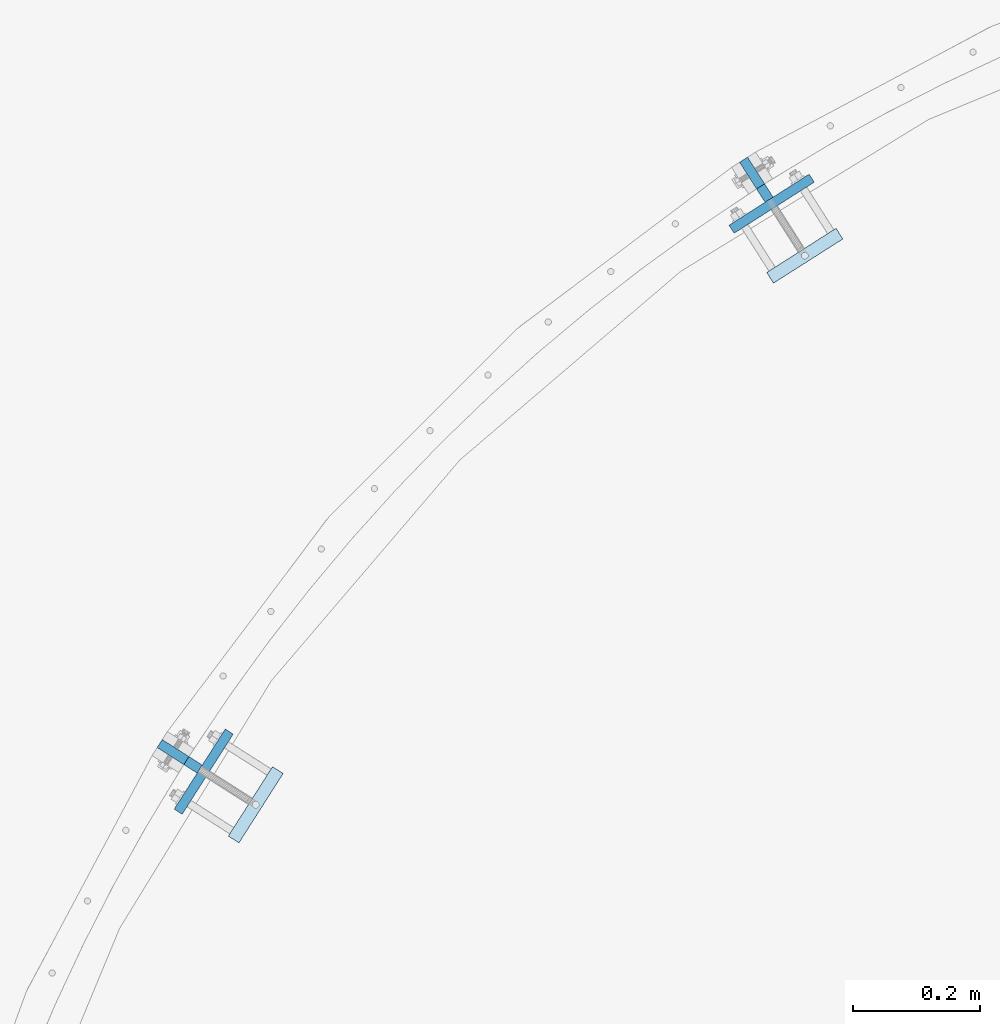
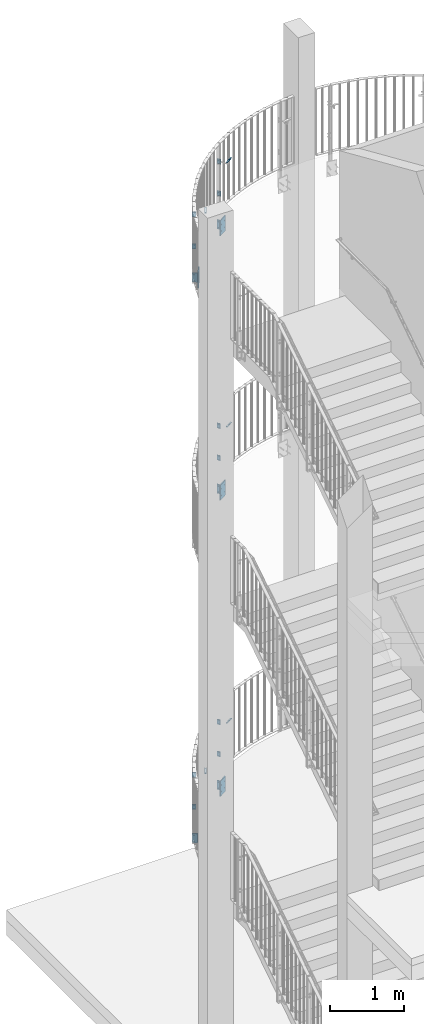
# One storey, part 113 of 296: 24 plates, 51 openings.
"""IFC2X3 building model written with IfcOpenShell, lengths in millimetres."""

from ifc_helpers import new_model, entity, si_unit, converted_unit, frame, frame_2d, origin, origin_with_axes, origin_2d_with_axis, place, context, project, spatial, polyline, circle, outline, extrude, material, layer, layer_set, element, save


model = new_model("IFC2X3")

# Units and contexts
model_context = context("Model", 3, precision=1e-09, world=origin_with_axes())
ifc_project = project(units=[si_unit("LENGTHUNIT", "METRE", prefix="MILLI"), si_unit("AREAUNIT", "SQUARE_METRE"), si_unit("VOLUMEUNIT", "CUBIC_METRE"), converted_unit("PLANEANGLEUNIT", "DEGREE", entity("IfcPlaneAngleMeasure", 0.01745329), si_unit("PLANEANGLEUNIT", "RADIAN"), dimensions=[0, 0, 0, 0, 0, 0, 0])], contexts=[model_context])

# Site, building, storey
site_placement = place(None, origin_with_axes())
site = spatial("IfcSite", under=ifc_project, at=site_placement, Name="TZD-S?d | Treppenhausgel?nder", CompositionType="ELEMENT")
building_placement = place(site_placement, origin_with_axes())
building = spatial("IfcBuilding", under=site, at=building_placement, Name="Struktur 1", CompositionType="ELEMENT")
storey_placement = place(building_placement, origin_with_axes())
storey = spatial("IfcBuildingStorey", under=building, at=storey_placement, Name="Default Storey", CompositionType="ELEMENT", Elevation=0.0)

# Plate, openings
ifc_material = material(Name="S235JR")
ifc_layer_1 = layer(ifc_material, 15.0)
ifc_layer_set_1 = layer_set([ifc_layer_1], Name="S235JR")
plate_1_placement = place(None, frame((1353.398645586, 2366.919979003, 7100.001), z_axis=(-0.537299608, 0.843391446, 0.0), x_axis=(-0.843391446, -0.537299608, 0.0)))
plate_1 = element("IfcPlate", 1, at=plate_1_placement, inside=storey, material=ifc_layer_set_1, Name="Girder", ObjectType="Girder", context=model_context, shape_type="SweptSolid", body=[
    extrude(outline(polyline([(-75.0, -125.0), (75.0, -125.0), (75.0, 125.0), (-75.0, 125.0), (-75.0, -125.0)])), origin_with_axes(), (0.0, 0.0, 1.0), 15.0),
])
opening_1_placement = place(plate_1_placement, frame((0.0, 0.0, -0.5), z_axis=(0.0, 0.0, 1.0), x_axis=(1.0, 0.0, 0.0)))
element("IfcOpeningElement", 2, at=opening_1_placement, cuts=plate_1, ObjectType="Opening", context=model_context, shape_type="SweptSolid", body=[
    extrude(circle(Radius=7.001, at=frame_2d((55.0, 55.0), x_axis=(1.0, 0.0))), origin(), (0.0, 0.0, 1.0), 16.0),
])
opening_2_placement = place(plate_1_placement, frame((0.0, 0.0, -0.5), z_axis=(0.0, 0.0, 1.0), x_axis=(1.0, 0.0, 0.0)))
element("IfcOpeningElement", 3, at=opening_2_placement, cuts=plate_1, ObjectType="Opening", context=model_context, shape_type="SweptSolid", body=[
    extrude(circle(Radius=7.001, at=frame_2d((-55.0, 55.0), x_axis=(1.0, 0.0))), origin(), (0.0, 0.0, 1.0), 16.0),
])
opening_3_placement = place(plate_1_placement, frame((0.0, 0.0, -0.5), z_axis=(0.0, 0.0, 1.0), x_axis=(1.0, 0.0, 0.0)))
element("IfcOpeningElement", 4, at=opening_3_placement, cuts=plate_1, ObjectType="Opening", context=model_context, shape_type="SweptSolid", body=[
    extrude(circle(Radius=7.001, at=frame_2d((55.0, -55.0), x_axis=(1.0, 0.0))), origin(), (0.0, 0.0, 1.0), 16.0),
])
opening_4_placement = place(plate_1_placement, frame((0.0, 0.0, -0.5), z_axis=(0.0, 0.0, 1.0), x_axis=(1.0, 0.0, 0.0)))
element("IfcOpeningElement", 5, at=opening_4_placement, cuts=plate_1, ObjectType="Opening", context=model_context, shape_type="SweptSolid", body=[
    extrude(circle(Radius=7.001, at=frame_2d((-55.0, -55.0), x_axis=(1.0, 0.0))), origin(), (0.0, 0.0, 1.0), 16.0),
])

plate_2_placement = place(None, frame((1331.515851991, 2415.22777697, 7100.001), z_axis=(-0.843391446, -0.537299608, 0.0), x_axis=(0.537299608, -0.843391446, 0.0)))
plate_2 = element("IfcPlate", 6, at=plate_2_placement, inside=storey, material=ifc_layer_set_1, Name="Girder", ObjectType="Girder", context=model_context, shape_type="SweptSolid", body=[
    extrude(outline(polyline([(-37.5, -75.0), (37.5, -75.0), (37.5, 75.0), (-37.5, 75.0), (-37.5, -75.0)])), origin_with_axes(), (0.0, 0.0, 1.0), 15.0),
])
opening_5_placement = place(plate_2_placement, frame((-12.5, 0.0, -0.5), z_axis=(0.0, 0.0, 1.0), x_axis=(1.0, 0.0, 0.0)))
element("IfcOpeningElement", 7, at=opening_5_placement, cuts=plate_2, ObjectType="Opening", context=model_context, shape_type="SweptSolid", body=[
    extrude(circle(Radius=7.001, at=frame_2d((0.0, 50.0), x_axis=(1.0, 0.0))), origin(), (0.0, 0.0, 1.0), 16.0),
])
opening_6_placement = place(plate_2_placement, frame((-12.5, 0.0, -0.5), z_axis=(0.0, 0.0, 1.0), x_axis=(1.0, 0.0, 0.0)))
element("IfcOpeningElement", 8, at=opening_6_placement, cuts=plate_2, ObjectType="Opening", context=model_context, shape_type="SweptSolid", body=[
    extrude(circle(Radius=7.001, at=frame_2d((0.0, -50.0), x_axis=(1.0, 0.0))), origin(), (0.0, 0.0, 1.0), 16.0),
])

plate_3_placement = place(None, frame((1324.799606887, 2425.770170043, 7615.001), z_axis=(-0.843391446, -0.537299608, 0.0), x_axis=(0.537299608, -0.843391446, 0.0)))
plate_3 = element("IfcPlate", 9, at=plate_3_placement, inside=storey, material=ifc_layer_set_1, Name="Girder", ObjectType="Girder", context=model_context, shape_type="SweptSolid", body=[
    extrude(outline(polyline([(-25.0, -40.0), (25.0, -40.0), (25.0, 40.0), (-25.0, 40.0), (-25.0, -40.0)])), origin_with_axes(), (0.0, 0.0, 1.0), 15.0),
])
opening_7_placement = place(plate_3_placement, frame((0.0, -1e-09, -0.5), z_axis=(0.0, 0.0, 1.0), x_axis=(1.0, 0.0, 0.0)))
element("IfcOpeningElement", 10, at=opening_7_placement, cuts=plate_3, ObjectType="Opening", context=model_context, shape_type="SweptSolid", body=[
    extrude(circle(Radius=5.001, at=frame_2d((0.0, 25.0), x_axis=(1.0, 0.0))), origin(), (0.0, 0.0, 1.0), 16.0),
])
opening_8_placement = place(plate_3_placement, frame((0.0, -1e-09, -0.5), z_axis=(0.0, 0.0, 1.0), x_axis=(1.0, 0.0, 0.0)))
element("IfcOpeningElement", 11, at=opening_8_placement, cuts=plate_3, ObjectType="Opening", context=model_context, shape_type="SweptSolid", body=[
    extrude(circle(Radius=5.001, at=frame_2d((0.0, -25.0), x_axis=(1.0, 0.0))), origin(), (0.0, 0.0, 1.0), 16.0),
])

plate_4_placement = place(None, frame((1324.799606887, 2425.770170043, 8145.001), z_axis=(-0.843391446, -0.537299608, 0.0), x_axis=(0.537299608, -0.843391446, 0.0)))
plate_4 = element("IfcPlate", 12, at=plate_4_placement, inside=storey, material=ifc_layer_set_1, Name="Girder", ObjectType="Girder", context=model_context, shape_type="SweptSolid", body=[
    extrude(outline(polyline([(-25.0, -40.0), (25.0, -40.0), (25.0, 40.0), (-25.0, 40.0), (-25.0, -40.0)])), origin_with_axes(), (0.0, 0.0, 1.0), 15.0),
])
opening_9_placement = place(plate_4_placement, frame((0.0, -1e-09, -0.5), z_axis=(0.0, 0.0, 1.0), x_axis=(1.0, 0.0, 0.0)))
element("IfcOpeningElement", 13, at=opening_9_placement, cuts=plate_4, ObjectType="Opening", context=model_context, shape_type="SweptSolid", body=[
    extrude(circle(Radius=5.001, at=frame_2d((0.0, 25.0), x_axis=(1.0, 0.0))), origin(), (0.0, 0.0, 1.0), 16.0),
])
opening_10_placement = place(plate_4_placement, frame((0.0, -1e-09, -0.5), z_axis=(0.0, 0.0, 1.0), x_axis=(1.0, 0.0, 0.0)))
element("IfcOpeningElement", 14, at=opening_10_placement, cuts=plate_4, ObjectType="Opening", context=model_context, shape_type="SweptSolid", body=[
    extrude(circle(Radius=5.001, at=frame_2d((0.0, -25.0), x_axis=(1.0, 0.0))), origin(), (0.0, 0.0, 1.0), 16.0),
])

# Plate, opening
ifc_layer_2 = layer(ifc_material, 10.0)
ifc_layer_set_2 = layer_set([ifc_layer_2], Name="S235JR")
plate_5_placement = place(None, frame((1401.755610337, 2291.01474888, 8210.0), z_axis=(0.0, 0.0, 1.0), x_axis=(-0.843391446, -0.537299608, 0.0)))
plate_5 = element("IfcPlate", 15, at=plate_5_placement, inside=storey, material=ifc_layer_set_2, Name="Girder", ObjectType="Girder", context=model_context, shape_type="SweptSolid", body=[
    extrude(outline(polyline([(-65.0, -10.0), (65.0, -10.0), (65.0, 10.0), (-65.0, 10.0), (-65.0, -10.0)])), origin_with_axes(), (0.0, 0.0, 1.0), 10.0),
])
opening_11_placement = place(plate_5_placement, frame((-5.6e-08, -2.6e-08, -0.5), z_axis=(0.0, 0.0, 1.0), x_axis=(-0.843391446, 0.537299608, 0.0)))
element("IfcOpeningElement", 16, at=opening_11_placement, cuts=plate_5, ObjectType="Opening", context=model_context, shape_type="SweptSolid", body=[
    extrude(circle(Radius=5.001, at=origin_2d_with_axis()), origin(), (0.0, 0.0, 1.0), 11.0),
])

# Plate, openings
plate_6_placement = place(None, frame((1353.398645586, 2366.919979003, 2200.001), z_axis=(-0.537299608, 0.843391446, 0.0), x_axis=(-0.843391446, -0.537299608, 0.0)))
plate_6 = element("IfcPlate", 17, at=plate_6_placement, inside=storey, material=ifc_layer_set_1, Name="Girder", ObjectType="Girder", context=model_context, shape_type="SweptSolid", body=[
    extrude(outline(polyline([(-75.0, -125.0), (75.0, -125.0), (75.0, 125.0), (-75.0, 125.0), (-75.0, -125.0)])), origin_with_axes(), (0.0, 0.0, 1.0), 15.0),
])
opening_12_placement = place(plate_6_placement, frame((0.0, 0.0, -0.5), z_axis=(0.0, 0.0, 1.0), x_axis=(1.0, 0.0, 0.0)))
element("IfcOpeningElement", 18, at=opening_12_placement, cuts=plate_6, ObjectType="Opening", context=model_context, shape_type="SweptSolid", body=[
    extrude(circle(Radius=7.001, at=frame_2d((55.0, 55.0), x_axis=(1.0, 0.0))), origin(), (0.0, 0.0, 1.0), 16.0),
])
opening_13_placement = place(plate_6_placement, frame((0.0, 0.0, -0.5), z_axis=(0.0, 0.0, 1.0), x_axis=(1.0, 0.0, 0.0)))
element("IfcOpeningElement", 19, at=opening_13_placement, cuts=plate_6, ObjectType="Opening", context=model_context, shape_type="SweptSolid", body=[
    extrude(circle(Radius=7.001, at=frame_2d((-55.0, 55.0), x_axis=(1.0, 0.0))), origin(), (0.0, 0.0, 1.0), 16.0),
])
opening_14_placement = place(plate_6_placement, frame((0.0, 0.0, -0.5), z_axis=(0.0, 0.0, 1.0), x_axis=(1.0, 0.0, 0.0)))
element("IfcOpeningElement", 20, at=opening_14_placement, cuts=plate_6, ObjectType="Opening", context=model_context, shape_type="SweptSolid", body=[
    extrude(circle(Radius=7.001, at=frame_2d((55.0, -55.0), x_axis=(1.0, 0.0))), origin(), (0.0, 0.0, 1.0), 16.0),
])
opening_15_placement = place(plate_6_placement, frame((0.0, 0.0, -0.5), z_axis=(0.0, 0.0, 1.0), x_axis=(1.0, 0.0, 0.0)))
element("IfcOpeningElement", 21, at=opening_15_placement, cuts=plate_6, ObjectType="Opening", context=model_context, shape_type="SweptSolid", body=[
    extrude(circle(Radius=7.001, at=frame_2d((-55.0, -55.0), x_axis=(1.0, 0.0))), origin(), (0.0, 0.0, 1.0), 16.0),
])

plate_7_placement = place(None, frame((1331.515851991, 2415.22777697, 2200.001), z_axis=(-0.843391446, -0.537299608, 0.0), x_axis=(0.537299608, -0.843391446, 0.0)))
plate_7 = element("IfcPlate", 22, at=plate_7_placement, inside=storey, material=ifc_layer_set_1, Name="Girder", ObjectType="Girder", context=model_context, shape_type="SweptSolid", body=[
    extrude(outline(polyline([(-37.5, -75.0), (37.5, -75.0), (37.5, 75.0), (-37.5, 75.0), (-37.5, -75.0)])), origin_with_axes(), (0.0, 0.0, 1.0), 15.0),
])
opening_16_placement = place(plate_7_placement, frame((-12.5, 0.0, -0.5), z_axis=(0.0, 0.0, 1.0), x_axis=(1.0, 0.0, 0.0)))
element("IfcOpeningElement", 23, at=opening_16_placement, cuts=plate_7, ObjectType="Opening", context=model_context, shape_type="SweptSolid", body=[
    extrude(circle(Radius=7.001, at=frame_2d((0.0, 50.0), x_axis=(1.0, 0.0))), origin(), (0.0, 0.0, 1.0), 16.0),
])
opening_17_placement = place(plate_7_placement, frame((-12.5, 0.0, -0.5), z_axis=(0.0, 0.0, 1.0), x_axis=(1.0, 0.0, 0.0)))
element("IfcOpeningElement", 24, at=opening_17_placement, cuts=plate_7, ObjectType="Opening", context=model_context, shape_type="SweptSolid", body=[
    extrude(circle(Radius=7.001, at=frame_2d((0.0, -50.0), x_axis=(1.0, 0.0))), origin(), (0.0, 0.0, 1.0), 16.0),
])

plate_8_placement = place(None, frame((1324.799606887, 2425.770170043, 2715.001), z_axis=(-0.843391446, -0.537299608, 0.0), x_axis=(0.537299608, -0.843391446, 0.0)))
plate_8 = element("IfcPlate", 25, at=plate_8_placement, inside=storey, material=ifc_layer_set_1, Name="Girder", ObjectType="Girder", context=model_context, shape_type="SweptSolid", body=[
    extrude(outline(polyline([(-25.0, -40.0), (25.0, -40.0), (25.0, 40.0), (-25.0, 40.0), (-25.0, -40.0)])), origin_with_axes(), (0.0, 0.0, 1.0), 15.0),
])
opening_18_placement = place(plate_8_placement, frame((0.0, -1e-09, -0.5), z_axis=(0.0, 0.0, 1.0), x_axis=(1.0, 0.0, 0.0)))
element("IfcOpeningElement", 26, at=opening_18_placement, cuts=plate_8, ObjectType="Opening", context=model_context, shape_type="SweptSolid", body=[
    extrude(circle(Radius=5.001, at=frame_2d((0.0, 25.0), x_axis=(1.0, 0.0))), origin(), (0.0, 0.0, 1.0), 16.0),
])
opening_19_placement = place(plate_8_placement, frame((0.0, -1e-09, -0.5), z_axis=(0.0, 0.0, 1.0), x_axis=(1.0, 0.0, 0.0)))
element("IfcOpeningElement", 27, at=opening_19_placement, cuts=plate_8, ObjectType="Opening", context=model_context, shape_type="SweptSolid", body=[
    extrude(circle(Radius=5.001, at=frame_2d((0.0, -25.0), x_axis=(1.0, 0.0))), origin(), (0.0, 0.0, 1.0), 16.0),
])

plate_9_placement = place(None, frame((1324.799606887, 2425.770170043, 3245.001), z_axis=(-0.843391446, -0.537299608, 0.0), x_axis=(0.537299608, -0.843391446, 0.0)))
plate_9 = element("IfcPlate", 28, at=plate_9_placement, inside=storey, material=ifc_layer_set_1, Name="Girder", ObjectType="Girder", context=model_context, shape_type="SweptSolid", body=[
    extrude(outline(polyline([(-25.0, -40.0), (25.0, -40.0), (25.0, 40.0), (-25.0, 40.0), (-25.0, -40.0)])), origin_with_axes(), (0.0, 0.0, 1.0), 15.0),
])
opening_20_placement = place(plate_9_placement, frame((0.0, -1e-09, -0.5), z_axis=(0.0, 0.0, 1.0), x_axis=(1.0, 0.0, 0.0)))
element("IfcOpeningElement", 29, at=opening_20_placement, cuts=plate_9, ObjectType="Opening", context=model_context, shape_type="SweptSolid", body=[
    extrude(circle(Radius=5.001, at=frame_2d((0.0, 25.0), x_axis=(1.0, 0.0))), origin(), (0.0, 0.0, 1.0), 16.0),
])
opening_21_placement = place(plate_9_placement, frame((0.0, -1e-09, -0.5), z_axis=(0.0, 0.0, 1.0), x_axis=(1.0, 0.0, 0.0)))
element("IfcOpeningElement", 30, at=opening_21_placement, cuts=plate_9, ObjectType="Opening", context=model_context, shape_type="SweptSolid", body=[
    extrude(circle(Radius=5.001, at=frame_2d((0.0, -25.0), x_axis=(1.0, 0.0))), origin(), (0.0, 0.0, 1.0), 16.0),
])

# Plate, opening
plate_10_placement = place(None, frame((1401.755610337, 2291.01474888, 3310.0), z_axis=(0.0, 0.0, 1.0), x_axis=(-0.843391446, -0.537299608, 0.0)))
plate_10 = element("IfcPlate", 31, at=plate_10_placement, inside=storey, material=ifc_layer_set_2, Name="Girder", ObjectType="Girder", context=model_context, shape_type="SweptSolid", body=[
    extrude(outline(polyline([(-65.0, -10.0), (65.0, -10.0), (65.0, 10.0), (-65.0, 10.0), (-65.0, -10.0)])), origin_with_axes(), (0.0, 0.0, 1.0), 10.0),
])
opening_22_placement = place(plate_10_placement, frame((-1.13e-07, -5.6e-08, -0.5), z_axis=(0.0, 0.0, 1.0), x_axis=(-0.843391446, 0.537299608, 0.0)))
element("IfcOpeningElement", 32, at=opening_22_placement, cuts=plate_10, ObjectType="Opening", context=model_context, shape_type="SweptSolid", body=[
    extrude(circle(Radius=5.001, at=origin_2d_with_axis()), origin(), (0.0, 0.0, 1.0), 11.0),
])

# Plate, openings
plate_11_placement = place(None, frame((417.831717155, 1506.135019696, 2200.001), z_axis=(-0.537299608, -0.843391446, 0.0), x_axis=(0.843391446, -0.537299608, 0.0)))
plate_11 = element("IfcPlate", 33, at=plate_11_placement, inside=storey, material=ifc_layer_set_1, Name="Girder", ObjectType="Girder", context=model_context, shape_type="SweptSolid", body=[
    extrude(outline(polyline([(-37.5, -75.0), (37.5, -75.0), (37.5, 75.0), (-37.5, 75.0), (-37.5, -75.0)])), origin_with_axes(), (0.0, 0.0, 1.0), 15.0),
])
opening_23_placement = place(plate_11_placement, frame((-12.5, 0.0, -0.5), z_axis=(0.0, 0.0, 1.0), x_axis=(1.0, 0.0, 0.0)))
element("IfcOpeningElement", 34, at=opening_23_placement, cuts=plate_11, ObjectType="Opening", context=model_context, shape_type="SweptSolid", body=[
    extrude(circle(Radius=7.001, at=frame_2d((0.0, 50.0), x_axis=(1.0, 0.0))), origin(), (0.0, 0.0, 1.0), 16.0),
])
opening_24_placement = place(plate_11_placement, frame((-12.5, 0.0, -0.5), z_axis=(0.0, 0.0, 1.0), x_axis=(1.0, 0.0, 0.0)))
element("IfcOpeningElement", 35, at=opening_24_placement, cuts=plate_11, ObjectType="Opening", context=model_context, shape_type="SweptSolid", body=[
    extrude(circle(Radius=7.001, at=frame_2d((0.0, -50.0), x_axis=(1.0, 0.0))), origin(), (0.0, 0.0, 1.0), 16.0),
])

plate_12_placement = place(None, frame((407.289324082, 1512.851264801, 2715.001), z_axis=(-0.537299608, -0.843391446, 0.0), x_axis=(0.843391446, -0.537299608, 0.0)))
plate_12 = element("IfcPlate", 36, at=plate_12_placement, inside=storey, material=ifc_layer_set_1, Name="Girder", ObjectType="Girder", context=model_context, shape_type="SweptSolid", body=[
    extrude(outline(polyline([(-25.0, -40.0), (25.0, -40.0), (25.0, 40.0), (-25.0, 40.0), (-25.0, -40.0)])), origin_with_axes(), (0.0, 0.0, 1.0), 15.0),
])
opening_25_placement = place(plate_12_placement, frame((0.0, -1e-09, -0.5), z_axis=(0.0, 0.0, 1.0), x_axis=(1.0, 0.0, 0.0)))
element("IfcOpeningElement", 37, at=opening_25_placement, cuts=plate_12, ObjectType="Opening", context=model_context, shape_type="SweptSolid", body=[
    extrude(circle(Radius=5.001, at=frame_2d((0.0, 25.0), x_axis=(1.0, 0.0))), origin(), (0.0, 0.0, 1.0), 16.0),
])
opening_26_placement = place(plate_12_placement, frame((0.0, -1e-09, -0.5), z_axis=(0.0, 0.0, 1.0), x_axis=(1.0, 0.0, 0.0)))
element("IfcOpeningElement", 38, at=opening_26_placement, cuts=plate_12, ObjectType="Opening", context=model_context, shape_type="SweptSolid", body=[
    extrude(circle(Radius=5.001, at=frame_2d((0.0, -25.0), x_axis=(1.0, 0.0))), origin(), (0.0, 0.0, 1.0), 16.0),
])

plate_13_placement = place(None, frame((407.289324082, 1512.851264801, 3245.001), z_axis=(-0.537299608, -0.843391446, 0.0), x_axis=(0.843391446, -0.537299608, 0.0)))
plate_13 = element("IfcPlate", 39, at=plate_13_placement, inside=storey, material=ifc_layer_set_1, Name="Girder", ObjectType="Girder", context=model_context, shape_type="SweptSolid", body=[
    extrude(outline(polyline([(-25.0, -40.0), (25.0, -40.0), (25.0, 40.0), (-25.0, 40.0), (-25.0, -40.0)])), origin_with_axes(), (0.0, 0.0, 1.0), 15.0),
])
opening_27_placement = place(plate_13_placement, frame((0.0, -1e-09, -0.5), z_axis=(0.0, 0.0, 1.0), x_axis=(1.0, 0.0, 0.0)))
element("IfcOpeningElement", 40, at=opening_27_placement, cuts=plate_13, ObjectType="Opening", context=model_context, shape_type="SweptSolid", body=[
    extrude(circle(Radius=5.001, at=frame_2d((0.0, 25.0), x_axis=(1.0, 0.0))), origin(), (0.0, 0.0, 1.0), 16.0),
])
opening_28_placement = place(plate_13_placement, frame((0.0, -1e-09, -0.5), z_axis=(0.0, 0.0, 1.0), x_axis=(1.0, 0.0, 0.0)))
element("IfcOpeningElement", 41, at=opening_28_placement, cuts=plate_13, ObjectType="Opening", context=model_context, shape_type="SweptSolid", body=[
    extrude(circle(Radius=5.001, at=frame_2d((0.0, -25.0), x_axis=(1.0, 0.0))), origin(), (0.0, 0.0, 1.0), 16.0),
])

# Plate, opening
plate_14_placement = place(None, frame((533.98525112, 1423.244389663, 3310.0), z_axis=(0.0, 0.0, 1.0), x_axis=(-0.537299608, -0.843391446, 0.0)))
plate_14 = element("IfcPlate", 42, at=plate_14_placement, inside=storey, material=ifc_layer_set_2, Name="Girder", ObjectType="Girder", context=model_context, shape_type="SweptSolid", body=[
    extrude(outline(polyline([(-65.0, -10.0), (65.0, -10.0), (65.0, 10.0), (-65.0, 10.0), (-65.0, -10.0)])), origin_with_axes(), (0.0, 0.0, 1.0), 10.0),
])
opening_29_placement = place(plate_14_placement, frame((1.9e-08, 4e-09, -0.5), z_axis=(0.0, 0.0, 1.0), x_axis=(-0.537299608, 0.843391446, 0.0)))
element("IfcOpeningElement", 43, at=opening_29_placement, cuts=plate_14, ObjectType="Opening", context=model_context, shape_type="SweptSolid", body=[
    extrude(circle(Radius=5.001, at=origin_2d_with_axis()), origin(), (0.0, 0.0, 1.0), 11.0),
])

# Plate, openings
plate_15_placement = place(None, frame((458.080020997, 1471.601354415, 11475.001), z_axis=(-0.843391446, 0.537299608, 0.0), x_axis=(-0.537299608, -0.843391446, 0.0)))
plate_15 = element("IfcPlate", 44, at=plate_15_placement, inside=storey, material=ifc_layer_set_1, Name="Girder", ObjectType="Girder", context=model_context, shape_type="SweptSolid", body=[
    extrude(outline(polyline([(-75.0, -125.0), (75.0, -125.0), (75.0, 125.0), (-75.0, 125.0), (-75.0, -125.0)])), origin_with_axes(), (0.0, 0.0, 1.0), 15.0),
])
opening_30_placement = place(plate_15_placement, frame((0.0, 0.0, -0.5), z_axis=(0.0, 0.0, 1.0), x_axis=(1.0, 0.0, 0.0)))
element("IfcOpeningElement", 45, at=opening_30_placement, cuts=plate_15, ObjectType="Opening", context=model_context, shape_type="SweptSolid", body=[
    extrude(circle(Radius=7.001, at=frame_2d((55.0, 55.0), x_axis=(1.0, 0.0))), origin(), (0.0, 0.0, 1.0), 16.0),
])
opening_31_placement = place(plate_15_placement, frame((0.0, 0.0, -0.5), z_axis=(0.0, 0.0, 1.0), x_axis=(1.0, 0.0, 0.0)))
element("IfcOpeningElement", 46, at=opening_31_placement, cuts=plate_15, ObjectType="Opening", context=model_context, shape_type="SweptSolid", body=[
    extrude(circle(Radius=7.001, at=frame_2d((-55.0, 55.0), x_axis=(1.0, 0.0))), origin(), (0.0, 0.0, 1.0), 16.0),
])
opening_32_placement = place(plate_15_placement, frame((0.0, 0.0, -0.5), z_axis=(0.0, 0.0, 1.0), x_axis=(1.0, 0.0, 0.0)))
element("IfcOpeningElement", 47, at=opening_32_placement, cuts=plate_15, ObjectType="Opening", context=model_context, shape_type="SweptSolid", body=[
    extrude(circle(Radius=7.001, at=frame_2d((55.0, -55.0), x_axis=(1.0, 0.0))), origin(), (0.0, 0.0, 1.0), 16.0),
])
opening_33_placement = place(plate_15_placement, frame((0.0, 0.0, -0.5), z_axis=(0.0, 0.0, 1.0), x_axis=(1.0, 0.0, 0.0)))
element("IfcOpeningElement", 48, at=opening_33_placement, cuts=plate_15, ObjectType="Opening", context=model_context, shape_type="SweptSolid", body=[
    extrude(circle(Radius=7.001, at=frame_2d((-55.0, -55.0), x_axis=(1.0, 0.0))), origin(), (0.0, 0.0, 1.0), 16.0),
])

plate_16_placement = place(None, frame((417.831717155, 1506.135019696, 11475.001), z_axis=(-0.537299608, -0.843391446, 0.0), x_axis=(0.843391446, -0.537299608, 0.0)))
plate_16 = element("IfcPlate", 49, at=plate_16_placement, inside=storey, material=ifc_layer_set_1, Name="Girder", ObjectType="Girder", context=model_context, shape_type="SweptSolid", body=[
    extrude(outline(polyline([(-37.5, -75.0), (37.5, -75.0), (37.5, 75.0), (-37.5, 75.0), (-37.5, -75.0)])), origin_with_axes(), (0.0, 0.0, 1.0), 15.0),
])
opening_34_placement = place(plate_16_placement, frame((-12.5, 0.0, -0.5), z_axis=(0.0, 0.0, 1.0), x_axis=(1.0, 0.0, 0.0)))
element("IfcOpeningElement", 50, at=opening_34_placement, cuts=plate_16, ObjectType="Opening", context=model_context, shape_type="SweptSolid", body=[
    extrude(circle(Radius=7.001, at=frame_2d((0.0, 50.0), x_axis=(1.0, 0.0))), origin(), (0.0, 0.0, 1.0), 16.0),
])
opening_35_placement = place(plate_16_placement, frame((-12.5, 0.0, -0.5), z_axis=(0.0, 0.0, 1.0), x_axis=(1.0, 0.0, 0.0)))
element("IfcOpeningElement", 51, at=opening_35_placement, cuts=plate_16, ObjectType="Opening", context=model_context, shape_type="SweptSolid", body=[
    extrude(circle(Radius=7.001, at=frame_2d((0.0, -50.0), x_axis=(1.0, 0.0))), origin(), (0.0, 0.0, 1.0), 16.0),
])

plate_17_placement = place(None, frame((407.289324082, 1512.851264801, 11990.001), z_axis=(-0.537299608, -0.843391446, 0.0), x_axis=(0.843391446, -0.537299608, 0.0)))
plate_17 = element("IfcPlate", 52, at=plate_17_placement, inside=storey, material=ifc_layer_set_1, Name="Girder", ObjectType="Girder", context=model_context, shape_type="SweptSolid", body=[
    extrude(outline(polyline([(-25.0, -40.0), (25.0, -40.0), (25.0, 40.0), (-25.0, 40.0), (-25.0, -40.0)])), origin_with_axes(), (0.0, 0.0, 1.0), 15.0),
])
opening_36_placement = place(plate_17_placement, frame((0.0, -1e-09, -0.5), z_axis=(0.0, 0.0, 1.0), x_axis=(1.0, 0.0, 0.0)))
element("IfcOpeningElement", 53, at=opening_36_placement, cuts=plate_17, ObjectType="Opening", context=model_context, shape_type="SweptSolid", body=[
    extrude(circle(Radius=5.001, at=frame_2d((0.0, 25.0), x_axis=(1.0, 0.0))), origin(), (0.0, 0.0, 1.0), 16.0),
])
opening_37_placement = place(plate_17_placement, frame((0.0, -1e-09, -0.5), z_axis=(0.0, 0.0, 1.0), x_axis=(1.0, 0.0, 0.0)))
element("IfcOpeningElement", 54, at=opening_37_placement, cuts=plate_17, ObjectType="Opening", context=model_context, shape_type="SweptSolid", body=[
    extrude(circle(Radius=5.001, at=frame_2d((0.0, -25.0), x_axis=(1.0, 0.0))), origin(), (0.0, 0.0, 1.0), 16.0),
])

plate_18_placement = place(None, frame((407.289324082, 1512.851264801, 12520.001), z_axis=(-0.537299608, -0.843391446, 0.0), x_axis=(0.843391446, -0.537299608, 0.0)))
plate_18 = element("IfcPlate", 55, at=plate_18_placement, inside=storey, material=ifc_layer_set_1, Name="Girder", ObjectType="Girder", context=model_context, shape_type="SweptSolid", body=[
    extrude(outline(polyline([(-25.0, -40.0), (25.0, -40.0), (25.0, 40.0), (-25.0, 40.0), (-25.0, -40.0)])), origin_with_axes(), (0.0, 0.0, 1.0), 15.0),
])
opening_38_placement = place(plate_18_placement, frame((0.0, -1e-09, -0.5), z_axis=(0.0, 0.0, 1.0), x_axis=(1.0, 0.0, 0.0)))
element("IfcOpeningElement", 56, at=opening_38_placement, cuts=plate_18, ObjectType="Opening", context=model_context, shape_type="SweptSolid", body=[
    extrude(circle(Radius=5.001, at=frame_2d((0.0, 25.0), x_axis=(1.0, 0.0))), origin(), (0.0, 0.0, 1.0), 16.0),
])
opening_39_placement = place(plate_18_placement, frame((0.0, -1e-09, -0.5), z_axis=(0.0, 0.0, 1.0), x_axis=(1.0, 0.0, 0.0)))
element("IfcOpeningElement", 57, at=opening_39_placement, cuts=plate_18, ObjectType="Opening", context=model_context, shape_type="SweptSolid", body=[
    extrude(circle(Radius=5.001, at=frame_2d((0.0, -25.0), x_axis=(1.0, 0.0))), origin(), (0.0, 0.0, 1.0), 16.0),
])

# Plate, opening
plate_19_placement = place(None, frame((533.98525112, 1423.244389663, 12585.0), z_axis=(0.0, 0.0, 1.0), x_axis=(-0.537299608, -0.843391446, 0.0)))
plate_19 = element("IfcPlate", 58, at=plate_19_placement, inside=storey, material=ifc_layer_set_2, Name="Girder", ObjectType="Girder", context=model_context, shape_type="SweptSolid", body=[
    extrude(outline(polyline([(-65.0, -10.0), (65.0, -10.0), (65.0, 10.0), (-65.0, 10.0), (-65.0, -10.0)])), origin_with_axes(), (0.0, 0.0, 1.0), 10.0),
])
opening_40_placement = place(plate_19_placement, frame((-5e-08, -1.1e-08, -0.5), z_axis=(0.0, 0.0, 1.0), x_axis=(-0.537299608, 0.843391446, 0.0)))
element("IfcOpeningElement", 59, at=opening_40_placement, cuts=plate_19, ObjectType="Opening", context=model_context, shape_type="SweptSolid", body=[
    extrude(circle(Radius=5.001, at=origin_2d_with_axis()), origin(), (0.0, 0.0, 1.0), 11.0),
])

# Plate, openings
plate_20_placement = place(None, frame((1353.398645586, 2366.919979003, 11475.001), z_axis=(-0.537299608, 0.843391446, 0.0), x_axis=(-0.843391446, -0.537299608, 0.0)))
plate_20 = element("IfcPlate", 60, at=plate_20_placement, inside=storey, material=ifc_layer_set_1, Name="Girder", ObjectType="Girder", context=model_context, shape_type="SweptSolid", body=[
    extrude(outline(polyline([(-75.0, -125.0), (75.0, -125.0), (75.0, 125.0), (-75.0, 125.0), (-75.0, -125.0)])), origin_with_axes(), (0.0, 0.0, 1.0), 15.0),
])
opening_41_placement = place(plate_20_placement, frame((0.0, 0.0, -0.5), z_axis=(0.0, 0.0, 1.0), x_axis=(1.0, 0.0, 0.0)))
element("IfcOpeningElement", 61, at=opening_41_placement, cuts=plate_20, ObjectType="Opening", context=model_context, shape_type="SweptSolid", body=[
    extrude(circle(Radius=7.001, at=frame_2d((55.0, 55.0), x_axis=(1.0, 0.0))), origin(), (0.0, 0.0, 1.0), 16.0),
])
opening_42_placement = place(plate_20_placement, frame((0.0, 0.0, -0.5), z_axis=(0.0, 0.0, 1.0), x_axis=(1.0, 0.0, 0.0)))
element("IfcOpeningElement", 62, at=opening_42_placement, cuts=plate_20, ObjectType="Opening", context=model_context, shape_type="SweptSolid", body=[
    extrude(circle(Radius=7.001, at=frame_2d((-55.0, 55.0), x_axis=(1.0, 0.0))), origin(), (0.0, 0.0, 1.0), 16.0),
])
opening_43_placement = place(plate_20_placement, frame((0.0, 0.0, -0.5), z_axis=(0.0, 0.0, 1.0), x_axis=(1.0, 0.0, 0.0)))
element("IfcOpeningElement", 63, at=opening_43_placement, cuts=plate_20, ObjectType="Opening", context=model_context, shape_type="SweptSolid", body=[
    extrude(circle(Radius=7.001, at=frame_2d((55.0, -55.0), x_axis=(1.0, 0.0))), origin(), (0.0, 0.0, 1.0), 16.0),
])
opening_44_placement = place(plate_20_placement, frame((0.0, 0.0, -0.5), z_axis=(0.0, 0.0, 1.0), x_axis=(1.0, 0.0, 0.0)))
element("IfcOpeningElement", 64, at=opening_44_placement, cuts=plate_20, ObjectType="Opening", context=model_context, shape_type="SweptSolid", body=[
    extrude(circle(Radius=7.001, at=frame_2d((-55.0, -55.0), x_axis=(1.0, 0.0))), origin(), (0.0, 0.0, 1.0), 16.0),
])

plate_21_placement = place(None, frame((1331.515851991, 2415.22777697, 11475.001), z_axis=(-0.843391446, -0.537299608, 0.0), x_axis=(0.537299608, -0.843391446, 0.0)))
plate_21 = element("IfcPlate", 65, at=plate_21_placement, inside=storey, material=ifc_layer_set_1, Name="Girder", ObjectType="Girder", context=model_context, shape_type="SweptSolid", body=[
    extrude(outline(polyline([(-37.5, -75.0), (37.5, -75.0), (37.5, 75.0), (-37.5, 75.0), (-37.5, -75.0)])), origin_with_axes(), (0.0, 0.0, 1.0), 15.0),
])
opening_45_placement = place(plate_21_placement, frame((-12.5, 0.0, -0.5), z_axis=(0.0, 0.0, 1.0), x_axis=(1.0, 0.0, 0.0)))
element("IfcOpeningElement", 66, at=opening_45_placement, cuts=plate_21, ObjectType="Opening", context=model_context, shape_type="SweptSolid", body=[
    extrude(circle(Radius=7.001, at=frame_2d((0.0, 50.0), x_axis=(1.0, 0.0))), origin(), (0.0, 0.0, 1.0), 16.0),
])
opening_46_placement = place(plate_21_placement, frame((-12.5, 0.0, -0.5), z_axis=(0.0, 0.0, 1.0), x_axis=(1.0, 0.0, 0.0)))
element("IfcOpeningElement", 67, at=opening_46_placement, cuts=plate_21, ObjectType="Opening", context=model_context, shape_type="SweptSolid", body=[
    extrude(circle(Radius=7.001, at=frame_2d((0.0, -50.0), x_axis=(1.0, 0.0))), origin(), (0.0, 0.0, 1.0), 16.0),
])

plate_22_placement = place(None, frame((1324.799606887, 2425.770170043, 11990.001), z_axis=(-0.843391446, -0.537299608, 0.0), x_axis=(0.537299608, -0.843391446, 0.0)))
plate_22 = element("IfcPlate", 68, at=plate_22_placement, inside=storey, material=ifc_layer_set_1, Name="Girder", ObjectType="Girder", context=model_context, shape_type="SweptSolid", body=[
    extrude(outline(polyline([(-25.0, -40.0), (25.0, -40.0), (25.0, 40.0), (-25.0, 40.0), (-25.0, -40.0)])), origin_with_axes(), (0.0, 0.0, 1.0), 15.0),
])
opening_47_placement = place(plate_22_placement, frame((0.0, -1e-09, -0.5), z_axis=(0.0, 0.0, 1.0), x_axis=(1.0, 0.0, 0.0)))
element("IfcOpeningElement", 69, at=opening_47_placement, cuts=plate_22, ObjectType="Opening", context=model_context, shape_type="SweptSolid", body=[
    extrude(circle(Radius=5.001, at=frame_2d((0.0, 25.0), x_axis=(1.0, 0.0))), origin(), (0.0, 0.0, 1.0), 16.0),
])
opening_48_placement = place(plate_22_placement, frame((0.0, -1e-09, -0.5), z_axis=(0.0, 0.0, 1.0), x_axis=(1.0, 0.0, 0.0)))
element("IfcOpeningElement", 70, at=opening_48_placement, cuts=plate_22, ObjectType="Opening", context=model_context, shape_type="SweptSolid", body=[
    extrude(circle(Radius=5.001, at=frame_2d((0.0, -25.0), x_axis=(1.0, 0.0))), origin(), (0.0, 0.0, 1.0), 16.0),
])

plate_23_placement = place(None, frame((1324.799606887, 2425.770170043, 12520.001), z_axis=(-0.843391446, -0.537299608, 0.0), x_axis=(0.537299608, -0.843391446, 0.0)))
plate_23 = element("IfcPlate", 71, at=plate_23_placement, inside=storey, material=ifc_layer_set_1, Name="Girder", ObjectType="Girder", context=model_context, shape_type="SweptSolid", body=[
    extrude(outline(polyline([(-25.0, -40.0), (25.0, -40.0), (25.0, 40.0), (-25.0, 40.0), (-25.0, -40.0)])), origin_with_axes(), (0.0, 0.0, 1.0), 15.0),
])
opening_49_placement = place(plate_23_placement, frame((0.0, -1e-09, -0.5), z_axis=(0.0, 0.0, 1.0), x_axis=(1.0, 0.0, 0.0)))
element("IfcOpeningElement", 72, at=opening_49_placement, cuts=plate_23, ObjectType="Opening", context=model_context, shape_type="SweptSolid", body=[
    extrude(circle(Radius=5.001, at=frame_2d((0.0, 25.0), x_axis=(1.0, 0.0))), origin(), (0.0, 0.0, 1.0), 16.0),
])
opening_50_placement = place(plate_23_placement, frame((0.0, -1e-09, -0.5), z_axis=(0.0, 0.0, 1.0), x_axis=(1.0, 0.0, 0.0)))
element("IfcOpeningElement", 73, at=opening_50_placement, cuts=plate_23, ObjectType="Opening", context=model_context, shape_type="SweptSolid", body=[
    extrude(circle(Radius=5.001, at=frame_2d((0.0, -25.0), x_axis=(1.0, 0.0))), origin(), (0.0, 0.0, 1.0), 16.0),
])

# Plate, opening
plate_24_placement = place(None, frame((1401.755610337, 2291.01474888, 12585.0), z_axis=(0.0, 0.0, 1.0), x_axis=(-0.843391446, -0.537299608, 0.0)))
plate_24 = element("IfcPlate", 74, at=plate_24_placement, inside=storey, material=ifc_layer_set_2, Name="Girder", ObjectType="Girder", context=model_context, shape_type="SweptSolid", body=[
    extrude(outline(polyline([(-65.0, -10.0), (65.0, -10.0), (65.0, 10.0), (-65.0, 10.0), (-65.0, -10.0)])), origin_with_axes(), (0.0, 0.0, 1.0), 10.0),
])
opening_51_placement = place(plate_24_placement, frame((1.24e-07, 5.4e-08, -0.5), z_axis=(0.0, 0.0, 1.0), x_axis=(-0.843391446, 0.537299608, 0.0)))
element("IfcOpeningElement", 75, at=opening_51_placement, cuts=plate_24, ObjectType="Opening", context=model_context, shape_type="SweptSolid", body=[
    extrude(circle(Radius=5.001, at=origin_2d_with_axis()), origin(), (0.0, 0.0, 1.0), 11.0),
])

save(model, "model.ifc")
